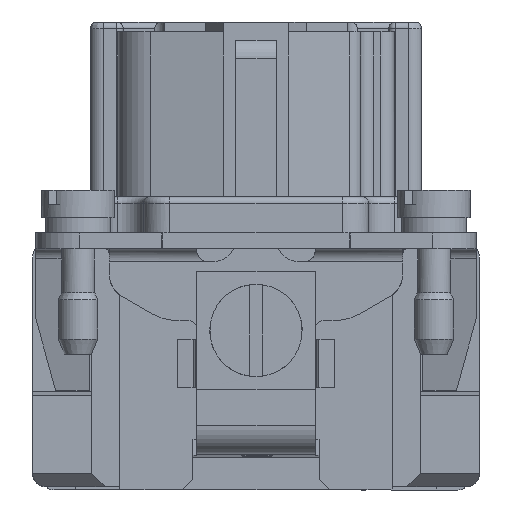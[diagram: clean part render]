
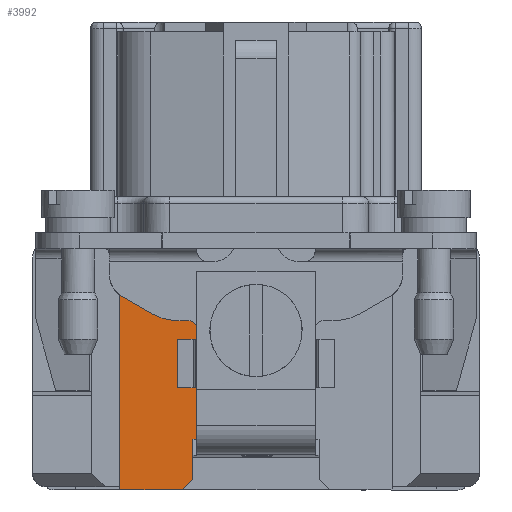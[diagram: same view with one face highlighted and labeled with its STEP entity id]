
A CAD part, left-side view. The second image highlights one B-rep face of the part: STEP entity #3992.
In plain terms, the highlighted planar face has unit normal (-1, 0, 0).
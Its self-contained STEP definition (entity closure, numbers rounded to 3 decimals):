
#2767=FACE_OUTER_BOUND('',#7490,.T.);
#3992=ADVANCED_FACE('',(#2767),#5400,.F.);
#5400=PLANE('',#28581);
#6371=CIRCLE('',#28578,0.6);
#6372=CIRCLE('',#28579,4.);
#6373=CIRCLE('',#28580,2.);
#7490=EDGE_LOOP('',(#9795,#9796,#9797,#9798,#9799,#9800,#9801,#9802,#9803,
#9804,#9805,#9806));
#9795=ORIENTED_EDGE('',*,*,#19607,.T.);
#9796=ORIENTED_EDGE('',*,*,#19608,.F.);
#9797=ORIENTED_EDGE('',*,*,#19609,.F.);
#9798=ORIENTED_EDGE('',*,*,#19610,.F.);
#9799=ORIENTED_EDGE('',*,*,#19611,.F.);
#9800=ORIENTED_EDGE('',*,*,#19612,.F.);
#9801=ORIENTED_EDGE('',*,*,#19613,.F.);
#9802=ORIENTED_EDGE('',*,*,#19614,.F.);
#9803=ORIENTED_EDGE('',*,*,#19380,.F.);
#9804=ORIENTED_EDGE('',*,*,#19615,.T.);
#9805=ORIENTED_EDGE('',*,*,#19616,.T.);
#9806=ORIENTED_EDGE('',*,*,#19617,.T.);
#16920=VERTEX_POINT('',#37420);
#16921=VERTEX_POINT('',#37422);
#17147=VERTEX_POINT('',#37876);
#17148=VERTEX_POINT('',#37877);
#17149=VERTEX_POINT('',#37879);
#17150=VERTEX_POINT('',#37881);
#17151=VERTEX_POINT('',#37883);
#17152=VERTEX_POINT('',#37885);
#17153=VERTEX_POINT('',#37887);
#17154=VERTEX_POINT('',#37889);
#17155=VERTEX_POINT('',#37892);
#17156=VERTEX_POINT('',#37894);
#19380=EDGE_CURVE('',#16920,#16921,#23034,.T.);
#19607=EDGE_CURVE('',#17147,#17148,#23213,.T.);
#19608=EDGE_CURVE('',#17149,#17148,#6371,.T.);
#19609=EDGE_CURVE('',#17150,#17149,#23214,.T.);
#19610=EDGE_CURVE('',#17151,#17150,#6372,.T.);
#19611=EDGE_CURVE('',#17152,#17151,#23215,.T.);
#19612=EDGE_CURVE('',#17153,#17152,#6373,.T.);
#19613=EDGE_CURVE('',#17154,#17153,#23216,.T.);
#19614=EDGE_CURVE('',#16921,#17154,#23217,.T.);
#19615=EDGE_CURVE('',#16920,#17155,#23218,.T.);
#19616=EDGE_CURVE('',#17155,#17156,#23219,.T.);
#19617=EDGE_CURVE('',#17156,#17147,#23220,.T.);
#23034=LINE('',#37421,#25584);
#23213=LINE('',#37875,#25763);
#23214=LINE('',#37880,#25764);
#23215=LINE('',#37884,#25765);
#23216=LINE('',#37888,#25766);
#23217=LINE('',#37890,#25767);
#23218=LINE('',#37891,#25768);
#23219=LINE('',#37893,#25769);
#23220=LINE('',#37895,#25770);
#25584=VECTOR('',#30603,1.);
#25763=VECTOR('',#30880,1.);
#25764=VECTOR('',#30883,1.);
#25765=VECTOR('',#30886,1.);
#25766=VECTOR('',#30889,1.);
#25767=VECTOR('',#30890,1.);
#25768=VECTOR('',#30891,1.);
#25769=VECTOR('',#30892,1.);
#25770=VECTOR('',#30893,1.);
#28578=AXIS2_PLACEMENT_3D('',#37878,#30881,#30882);
#28579=AXIS2_PLACEMENT_3D('',#37882,#30884,#30885);
#28580=AXIS2_PLACEMENT_3D('',#37886,#30887,#30888);
#28581=AXIS2_PLACEMENT_3D('',#37896,#30894,#30895);
#30603=DIRECTION('',(0.,1.,0.));
#30880=DIRECTION('',(0.,0.,1.));
#30881=DIRECTION('',(1.,0.,0.));
#30882=DIRECTION('',(0.,1.,0.));
#30883=DIRECTION('',(0.,-1.,0.));
#30884=DIRECTION('',(-1.,0.,0.));
#30885=DIRECTION('',(0.,1.,0.));
#30886=DIRECTION('',(0.,-0.866,-0.5));
#30887=DIRECTION('',(-1.,0.,0.));
#30888=DIRECTION('',(0.,1.,0.));
#30889=DIRECTION('',(0.,0.,1.));
#30890=DIRECTION('',(0.,0.,1.));
#30891=DIRECTION('',(0.,-0.707,0.707));
#30892=DIRECTION('',(0.,0.,1.));
#30893=DIRECTION('',(0.,-1.,0.));
#30894=DIRECTION('',(1.,0.,0.));
#30895=DIRECTION('',(0.,1.,0.));
#37420=CARTESIAN_POINT('',(-44.863,5.6,-18.3));
#37421=CARTESIAN_POINT('',(-44.863,5.6,-18.3));
#37422=CARTESIAN_POINT('',(-44.863,10.325,-18.3));
#37875=CARTESIAN_POINT('',(-44.863,4.5,-5.45));
#37876=CARTESIAN_POINT('',(-44.863,4.5,-14.45));
#37877=CARTESIAN_POINT('',(-44.863,4.5,-6.05));
#37878=CARTESIAN_POINT('',(-44.863,5.1,-6.05));
#37879=CARTESIAN_POINT('',(-44.863,5.1,-5.45));
#37880=CARTESIAN_POINT('',(-44.863,-10.175,-5.45));
#37881=CARTESIAN_POINT('',(-44.863,5.928,-5.45));
#37882=CARTESIAN_POINT('',(-44.863,5.928,-1.45));
#37883=CARTESIAN_POINT('',(-44.863,7.928,-4.914));
#37884=CARTESIAN_POINT('',(-44.863,-11.445,-16.099));
#37885=CARTESIAN_POINT('',(-44.863,10.15,-3.631));
#37886=CARTESIAN_POINT('',(-44.863,9.15,-1.899));
#37887=CARTESIAN_POINT('',(-44.863,10.325,-3.518));
#37888=CARTESIAN_POINT('',(-44.863,10.325,-18.05));
#37889=CARTESIAN_POINT('',(-44.863,10.325,-18.05));
#37890=CARTESIAN_POINT('',(-44.863,10.325,-18.4));
#37891=CARTESIAN_POINT('',(-44.863,5.6,-18.3));
#37892=CARTESIAN_POINT('',(-44.863,4.8,-17.5));
#37893=CARTESIAN_POINT('',(-44.863,4.8,-17.5));
#37894=CARTESIAN_POINT('',(-44.863,4.8,-14.45));
#37895=CARTESIAN_POINT('',(-44.863,-4.8,-14.45));
#37896=CARTESIAN_POINT('',(-44.863,-10.175,-18.3));
